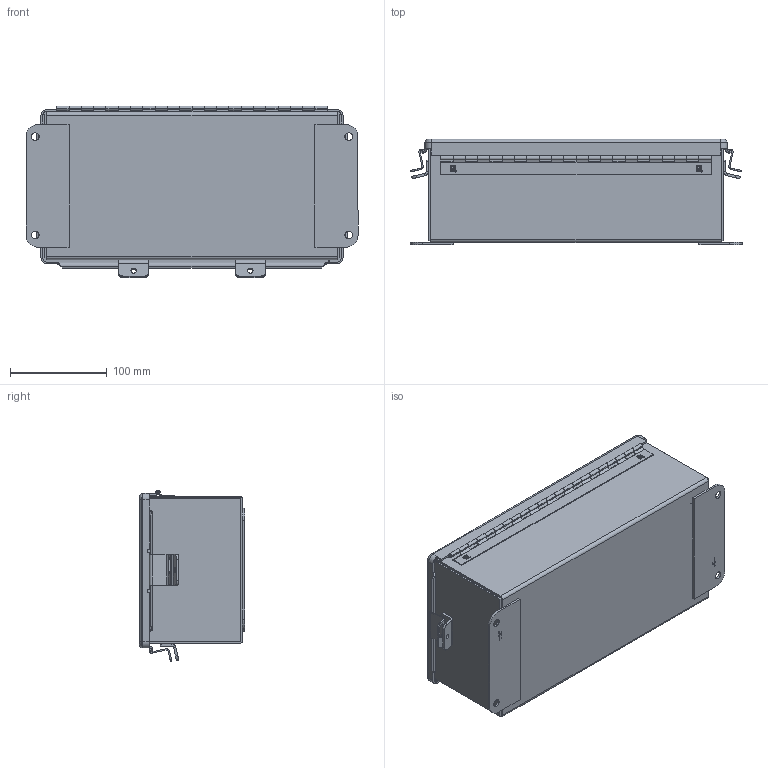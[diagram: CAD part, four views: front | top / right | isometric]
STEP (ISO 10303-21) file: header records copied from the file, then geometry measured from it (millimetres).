
FILE_DESCRIPTION (( 'STEP AP203' ), '1' );
FILE_NAME ('a1264chnf.STEP', '2015-10-30T19:17:48', ( '' ), ( '' ), 'SwSTEP 2.0', 'SolidWorks 2014', '' );
FILE_SCHEMA (( 'CONFIG_CONTROL_DESIGN' ));
Length unit declared in the file: inch
Products named in the file (14): 89099016; 54208002_54208002; 89115259_STANDARD CLOSED STATE; 54106001; 54101002; 54102001; 58346012; 89052942; 89115256_PER MODEL; 89052943; a1264chnf; 54153005_CLOSED STATE - JIC; 89115258_STANDARD CLOSED STATE; 89099015
Assembly tree (25 placements, depth 5):
  a1264chnf
    89115259_STANDARD CLOSED STATE
      89099015
      54208002_54208002  x2
      54106001  x4
      54102001  x4
      89115258_STANDARD CLOSED STATE
        58346012
        54153005_CLOSED STATE - JIC
          89052942  x2
          89052943
      89099016  x2
    54101002  x4
    89115256_PER MODEL
Bounding box: 342.9 x 108.97 x 177.22 mm (x, y, z)
Volume: 486247.2 mm3; surface area: 516370.8 mm2
Topology: 23 solids, 23 shells, 1804 faces, 4744 edges, 3076 vertices
Faces by surface type: plane 810, bspline 586, cylinder 308, sphere 40, torus 32, cone 28
Entity records: 38735 total; most frequent: CARTESIAN_POINT 17162, ORIENTED_EDGE 4526, DIRECTION 3333, EDGE_CURVE 2263, VERTEX_POINT 1451, LINE 1337, VECTOR 1337, AXIS2_PLACEMENT_3D 998
